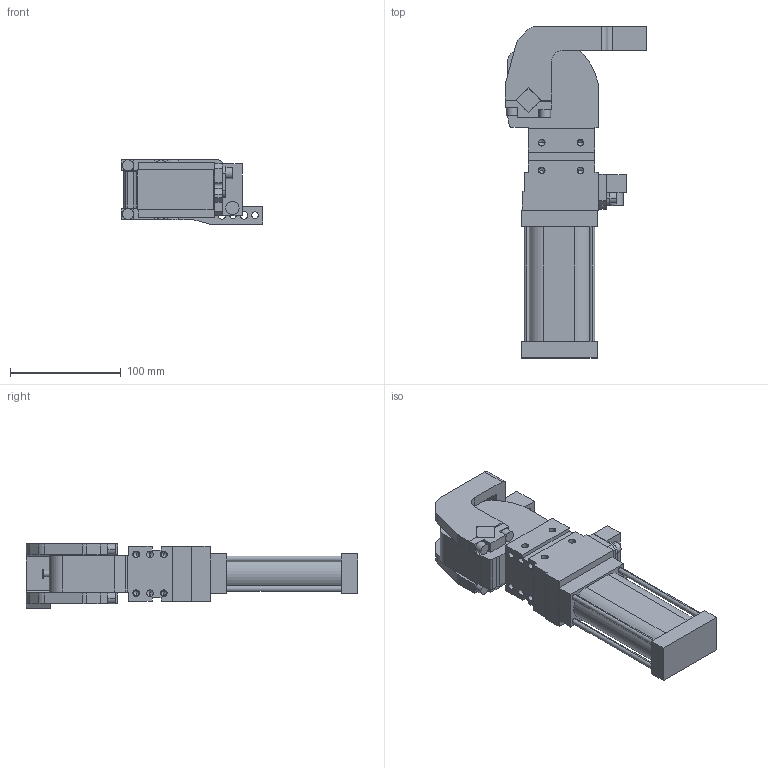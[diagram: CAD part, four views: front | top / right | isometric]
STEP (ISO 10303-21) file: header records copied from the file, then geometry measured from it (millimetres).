
FILE_DESCRIPTION (( 'STEP AP214' ), '1' );
FILE_NAME ('cpl40v3dsi1g_57.STEP', '2021-05-25T10:47:56', ( '' ), ( '' ), 'SwSTEP 2.0', 'SolidWorks 2021', '' );
FILE_SCHEMA (( 'AUTOMOTIVE_DESIGN' ));
Length unit declared in the file: millimetre
Products named in the file (5): cpl40v3dsi1g_57; meccanica_cpl40; leva_v3s_cpl40; blocchetto_VEP_0_cpl40; piastra_blocchetto_cpl40
Assembly tree (4 placements, depth 2):
  cpl40v3dsi1g_57
    meccanica_cpl40
    blocchetto_VEP_0_cpl40
    piastra_blocchetto_cpl40
    leva_v3s_cpl40
Bounding box: 128 x 300 x 58 mm (x, y, z)
Volume: 792032 mm3; surface area: 122330.3 mm2
Topology: 5 solids, 5 shells, 417 faces, 1067 edges, 667 vertices
Faces by surface type: plane 220, cylinder 149, cone 48
Entity records: 13886 total; most frequent: DIRECTION 2197, CARTESIAN_POINT 2112, ORIENTED_EDGE 2042, EDGE_CURVE 1021, AXIS2_PLACEMENT_3D 752, VECTOR 693, LINE 693, VERTEX_POINT 667
